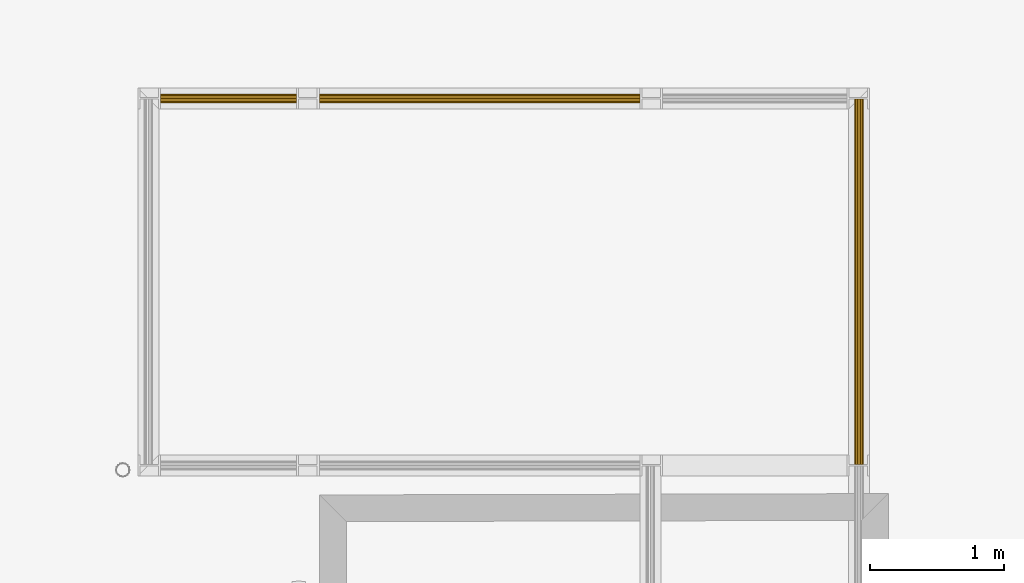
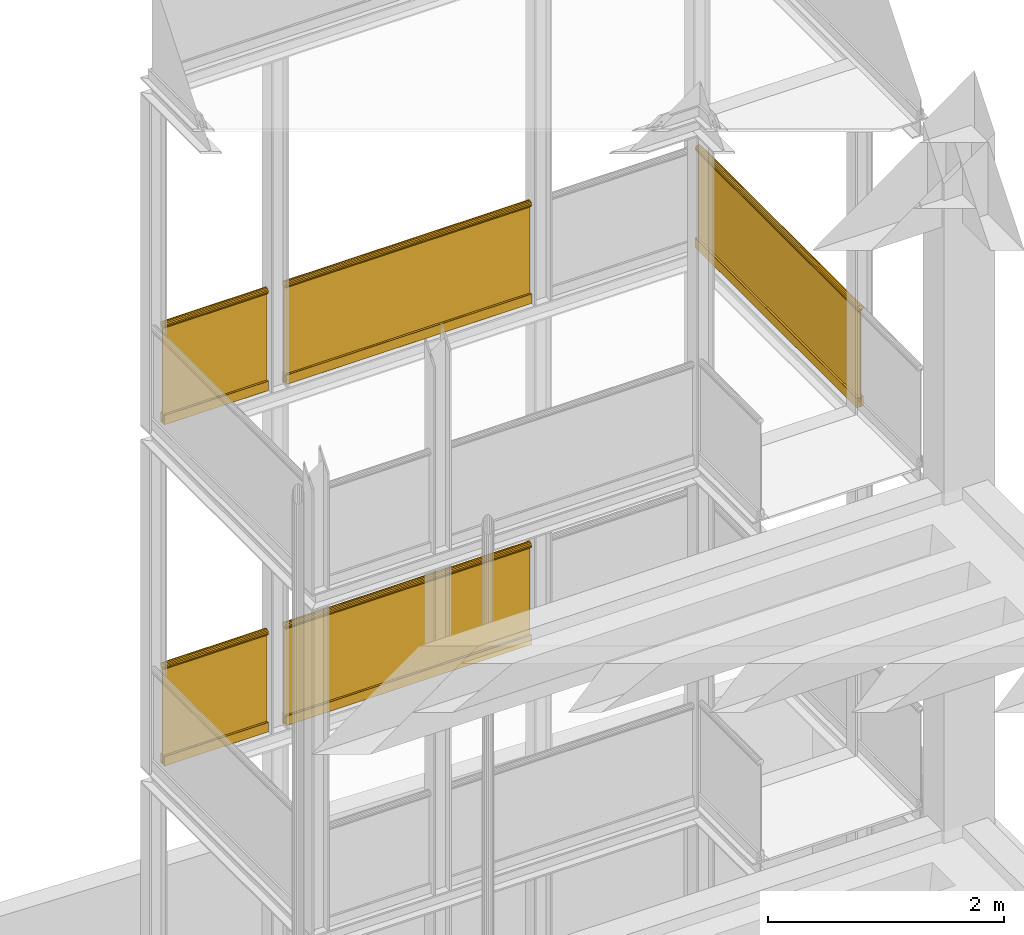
# One storey, part 34 of 108: 5 railings.
"""IFC2X3 building model written with IfcOpenShell, lengths in metres."""

from ifc_helpers import new_model, entity, si_unit, converted_unit, derived_unit, money_unit, direction, frame, origin_with_axes, place, context, subcontext, project, spatial, faceted_brep, material, type_object, element, save


model = new_model("IFC2X3")

# Units and contexts
model_context = context("Model", 3, precision=1e-05, world=origin_with_axes(), true_north=direction((0.0, 1.0)))
body_context = subcontext(model_context, "Body", "Model", "MODEL_VIEW", scale=1.0)
ifc_project = project(units=[si_unit("LENGTHUNIT", "METRE"), si_unit("AREAUNIT", "SQUARE_METRE"), si_unit("VOLUMEUNIT", "CUBIC_METRE"), si_unit("ABSORBEDDOSEUNIT", "GRAY"), si_unit("AMOUNTOFSUBSTANCEUNIT", "MOLE"), si_unit("DOSEEQUIVALENTUNIT", "SIEVERT"), si_unit("ELECTRICCAPACITANCEUNIT", "FARAD"), si_unit("ELECTRICCHARGEUNIT", "COULOMB"), si_unit("ELECTRICCONDUCTANCEUNIT", "SIEMENS"), si_unit("ELECTRICCURRENTUNIT", "AMPERE"), si_unit("ELECTRICRESISTANCEUNIT", "OHM"), si_unit("ELECTRICVOLTAGEUNIT", "VOLT"), si_unit("ENERGYUNIT", "JOULE"), si_unit("FORCEUNIT", "NEWTON"), si_unit("FREQUENCYUNIT", "HERTZ"), si_unit("ILLUMINANCEUNIT", "LUX"), si_unit("INDUCTANCEUNIT", "HENRY"), si_unit("LUMINOUSFLUXUNIT", "LUMEN"), si_unit("LUMINOUSINTENSITYUNIT", "CANDELA"), si_unit("MAGNETICFLUXDENSITYUNIT", "TESLA"), si_unit("MAGNETICFLUXUNIT", "WEBER"), si_unit("MASSUNIT", "GRAM"), converted_unit("PLANEANGLEUNIT", "degree", entity("IfcReal", 0.0174532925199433), si_unit("PLANEANGLEUNIT", "RADIAN"), dimensions=[0, 0, 0, 0, 0, 0, 0]), si_unit("POWERUNIT", "WATT"), si_unit("PRESSUREUNIT", "PASCAL"), si_unit("RADIOACTIVITYUNIT", "BECQUEREL"), si_unit("SOLIDANGLEUNIT", "STERADIAN"), si_unit("THERMODYNAMICTEMPERATUREUNIT", "KELVIN"), si_unit("TIMEUNIT", "SECOND"), derived_unit("ACCELERATIONUNIT", [(si_unit("LENGTHUNIT", "METRE"), 1), (si_unit("TIMEUNIT", "SECOND"), -2)]), derived_unit("ANGULARVELOCITYUNIT", [(converted_unit("PLANEANGLEUNIT", "degree", entity("IfcReal", 0.0174532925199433), si_unit("PLANEANGLEUNIT", "RADIAN"), dimensions=[0, 0, 0, 0, 0, 0, 0]), 1), (si_unit("TIMEUNIT", "SECOND"), -1)]), derived_unit("CURVATUREUNIT", [(converted_unit("PLANEANGLEUNIT", "degree", entity("IfcReal", 0.0174532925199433), si_unit("PLANEANGLEUNIT", "RADIAN"), dimensions=[0, 0, 0, 0, 0, 0, 0]), 1), (si_unit("LENGTHUNIT", "METRE"), -1)]), derived_unit("DYNAMICVISCOSITYUNIT", [(si_unit("PRESSUREUNIT", "PASCAL"), 1), (si_unit("TIMEUNIT", "SECOND"), 1)]), derived_unit("HEATFLUXDENSITYUNIT", [(si_unit("POWERUNIT", "WATT"), 1), (si_unit("LENGTHUNIT", "METRE"), -2)]), derived_unit("HEATINGVALUEUNIT", [(si_unit("ENERGYUNIT", "JOULE"), 1), (si_unit("MASSUNIT", "GRAM"), -1)]), derived_unit("INTEGERCOUNTRATEUNIT", [(si_unit("TIMEUNIT", "SECOND"), -1)]), derived_unit("IONCONCENTRATIONUNIT", [(si_unit("MASSUNIT", "GRAM"), 1), (si_unit("VOLUMEUNIT", "CUBIC_METRE"), -1)]), derived_unit("ISOTHERMALMOISTURECAPACITYUNIT", [(si_unit("VOLUMEUNIT", "CUBIC_METRE"), 1), (si_unit("MASSUNIT", "GRAM"), -1)]), derived_unit("KINEMATICVISCOSITYUNIT", [(si_unit("AREAUNIT", "SQUARE_METRE"), 1), (si_unit("TIMEUNIT", "SECOND"), -1)]), derived_unit("LINEARFORCEUNIT", [(si_unit("FORCEUNIT", "NEWTON"), 1), (si_unit("LENGTHUNIT", "METRE"), -1)]), derived_unit("LINEARMOMENTUNIT", [(si_unit("FORCEUNIT", "NEWTON"), 1), (si_unit("LENGTHUNIT", "METRE"), -1)]), derived_unit("LINEARSTIFFNESSUNIT", [(si_unit("FORCEUNIT", "NEWTON"), 1), (si_unit("LENGTHUNIT", "METRE"), -1)]), derived_unit("LINEARVELOCITYUNIT", [(si_unit("LENGTHUNIT", "METRE"), 1), (si_unit("TIMEUNIT", "SECOND"), -1)]), derived_unit("LUMINOUSINTENSITYDISTRIBUTIONUNIT", [(si_unit("LUMINOUSINTENSITYUNIT", "CANDELA"), 1), (si_unit("LUMINOUSFLUXUNIT", "LUMEN"), -1)]), derived_unit("MASSDENSITYUNIT", [(si_unit("MASSUNIT", "GRAM"), 1), (si_unit("VOLUMEUNIT", "CUBIC_METRE"), -1)]), derived_unit("MASSFLOWRATEUNIT", [(si_unit("MASSUNIT", "GRAM"), 1), (si_unit("TIMEUNIT", "SECOND"), -1)]), derived_unit("MASSPERLENGTHUNIT", [(si_unit("MASSUNIT", "GRAM"), 1), (si_unit("LENGTHUNIT", "METRE"), -1)]), derived_unit("MODULUSOFELASTICITYUNIT", [(si_unit("FORCEUNIT", "NEWTON"), 1), (si_unit("AREAUNIT", "SQUARE_METRE"), -1)]), derived_unit("MODULUSOFLINEARSUBGRADEREACTIONUNIT", [(si_unit("FORCEUNIT", "NEWTON"), 1), (si_unit("LENGTHUNIT", "METRE"), -2)]), derived_unit("MODULUSOFROTATIONALSUBGRADEREACTIONUNIT", [(si_unit("FORCEUNIT", "NEWTON"), 1), (si_unit("LENGTHUNIT", "METRE"), 1)]), derived_unit("MODULUSOFSUBGRADEREACTIONUNIT", [(si_unit("FORCEUNIT", "NEWTON"), 1), (si_unit("VOLUMEUNIT", "CUBIC_METRE"), -1)]), derived_unit("MOISTUREDIFFUSIVITYUNIT", [(si_unit("VOLUMEUNIT", "CUBIC_METRE"), 1), (si_unit("TIMEUNIT", "SECOND"), -1)]), derived_unit("MOLECULARWEIGHTUNIT", [(si_unit("MASSUNIT", "GRAM"), 1), (si_unit("AMOUNTOFSUBSTANCEUNIT", "MOLE"), -1)]), derived_unit("PLANARFORCEUNIT", [(si_unit("FORCEUNIT", "NEWTON"), 1), (si_unit("LENGTHUNIT", "METRE"), -2)]), derived_unit("ROTATIONALFREQUENCYUNIT", [(si_unit("TIMEUNIT", "SECOND"), -1)]), derived_unit("ROTATIONALMASSUNIT", [(si_unit("MASSUNIT", "GRAM"), 1), (si_unit("LENGTHUNIT", "METRE"), 2)]), derived_unit("ROTATIONALSTIFFNESSUNIT", [(si_unit("FORCEUNIT", "NEWTON"), 1), (si_unit("LENGTHUNIT", "METRE"), 1), (converted_unit("PLANEANGLEUNIT", "degree", entity("IfcReal", 0.0174532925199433), si_unit("PLANEANGLEUNIT", "RADIAN"), dimensions=[0, 0, 0, 0, 0, 0, 0]), -1)]), derived_unit("SECTIONAREAINTEGRALUNIT", [(si_unit("LENGTHUNIT", "METRE"), 5)]), derived_unit("SECTIONMODULUSUNIT", [(si_unit("LENGTHUNIT", "METRE"), 3)]), derived_unit("SHEARMODULUSUNIT", [(si_unit("FORCEUNIT", "NEWTON"), 1), (si_unit("AREAUNIT", "SQUARE_METRE"), -1)]), derived_unit("SOUNDPOWERUNIT", [(si_unit("ENERGYUNIT", "JOULE"), 1), (si_unit("TIMEUNIT", "SECOND"), -1)]), derived_unit("SPECIFICHEATCAPACITYUNIT", [(si_unit("FORCEUNIT", "NEWTON"), 1), (si_unit("MASSUNIT", "GRAM"), -1), (si_unit("THERMODYNAMICTEMPERATUREUNIT", "KELVIN"), -1)]), derived_unit("TEMPERATUREGRADIENTUNIT", [(si_unit("THERMODYNAMICTEMPERATUREUNIT", "KELVIN"), 1), (si_unit("LENGTHUNIT", "METRE"), -1)]), derived_unit("THERMALADMITTANCEUNIT", [(si_unit("POWERUNIT", "WATT"), 1), (si_unit("AREAUNIT", "SQUARE_METRE"), -1), (si_unit("THERMODYNAMICTEMPERATUREUNIT", "KELVIN"), -1)]), derived_unit("THERMALCONDUCTANCEUNIT", [(si_unit("POWERUNIT", "WATT"), 1), (si_unit("LENGTHUNIT", "METRE"), -1), (si_unit("THERMODYNAMICTEMPERATUREUNIT", "KELVIN"), -1)]), derived_unit("THERMALEXPANSIONCOEFFICIENTUNIT", [(si_unit("THERMODYNAMICTEMPERATUREUNIT", "KELVIN"), -1)]), derived_unit("THERMALRESISTANCEUNIT", [(si_unit("AREAUNIT", "SQUARE_METRE"), 1), (si_unit("POWERUNIT", "WATT"), -1)]), derived_unit("THERMALTRANSMITTANCEUNIT", [(si_unit("POWERUNIT", "WATT"), 1), (si_unit("AREAUNIT", "SQUARE_METRE"), -1), (si_unit("THERMODYNAMICTEMPERATUREUNIT", "KELVIN"), -1)]), derived_unit("TORQUEUNIT", [(si_unit("FORCEUNIT", "NEWTON"), 1), (si_unit("LENGTHUNIT", "METRE"), 1)]), derived_unit("VAPORPERMEABILITYUNIT", [(si_unit("MASSUNIT", "GRAM"), 1), (si_unit("TIMEUNIT", "SECOND"), -1)]), derived_unit("VOLUMETRICFLOWRATEUNIT", [(si_unit("VOLUMEUNIT", "CUBIC_METRE"), 1), (si_unit("TIMEUNIT", "SECOND"), -1)]), derived_unit("WARPINGCONSTANTUNIT", [(si_unit("LENGTHUNIT", "METRE"), 6)]), derived_unit("WARPINGMOMENTUNIT", [(si_unit("FORCEUNIT", "NEWTON"), 1), (si_unit("LENGTHUNIT", "METRE"), 2)]), money_unit("GBP")], contexts=[model_context])

# Site, building, storey
site_placement = place(None, origin_with_axes())
site = spatial("IfcSite", under=ifc_project, at=site_placement, Name="Site", CompositionType="ELEMENT")
building_placement = place(site_placement, origin_with_axes())
building = spatial("IfcBuilding", under=site, at=building_placement, Name="Building01", CompositionType="ELEMENT")
storey_placement = place(building_placement, origin_with_axes())
storey = spatial("IfcBuildingStorey", under=building, at=storey_placement, Name="GF", CompositionType="ELEMENT", Elevation=0.0)

# Railings
ifc_material = material(Name="A_BSUK_Steel_Miscellaneous")
railing_type = type_object("IfcRailingType", Name="A-RailingGlassPanel-1050mm", PredefinedType="NOTDEFINED")
railing_1_placement = place(storey_placement, frame((22.199835, 18.663481, 8.587442), z_axis=(0.0, 0.0, 1.0), x_axis=(1.0, 0.0, 0.0)))
element("IfcRailing", 1, at=railing_1_placement, inside=storey, type_object=railing_type, material=ifc_material, Name="A-RailingGlassPanel-1050mm", ObjectType="A-RailingGlassPanel-1050mm", PredefinedType="HANDRAIL", context=body_context, shape_type="Brep", body=[
    faceted_brep([(-1.018201, -0.0125, 0.9875), (0.0, -0.0125, 0.9875), (0.0, -0.023022, 0.99456), (-1.018201, -0.023022, 0.99456), (0.0, -0.030045, 1.005108), (-1.018201, -0.030045, 1.005108), (0.0, -0.0325, 1.017539), (-1.018201, -0.0325, 1.017539), (0.0, -0.030015, 1.029964), (-1.018201, -0.030015, 1.029964), (0.0, -0.022967, 1.040495), (-1.018201, -0.022967, 1.040495), (0.0, -0.012428, 1.04753), (-1.018201, -0.012428, 1.04753), (0.0, 0.0, 1.05), (-1.018201, 0.0, 1.05), (0.0, 0.012428, 1.04753), (-1.018201, 0.012428, 1.04753), (0.0, 0.022967, 1.040495), (-1.018201, 0.022967, 1.040495), (0.0, 0.030015, 1.029964), (-1.018201, 0.030015, 1.029964), (0.0, 0.0325, 1.017539), (-1.018201, 0.0325, 1.017539), (0.0, 0.030045, 1.005108), (-1.018201, 0.030045, 1.005108), (0.0, 0.023022, 0.99456), (-1.018201, 0.023022, 0.99456), (0.0, 0.0125, 0.9875), (-1.018201, 0.0125, 0.9875), (-1.018201, -0.0125, 1.0125), (0.0, -0.0125, 1.0125), (-1.018201, 0.0125, 1.0125), (0.0, 0.0125, 1.0125)], [[[0, 1, 2, 3]], [[3, 2, 4, 5]], [[5, 4, 6, 7]], [[7, 6, 8, 9]], [[9, 8, 10, 11]], [[11, 10, 12, 13]], [[13, 12, 14, 15]], [[15, 14, 16, 17]], [[17, 16, 18, 19]], [[19, 18, 20, 21]], [[21, 20, 22, 23]], [[23, 22, 24, 25]], [[25, 24, 26, 27]], [[27, 26, 28, 29]], [[0, 30, 31, 1]], [[30, 32, 33, 31]], [[32, 30, 0, 3, 5, 7, 9, 11, 13, 15, 17, 19, 21, 23, 25, 27, 29]], [[32, 29, 28, 33]], [[28, 26, 24, 22, 20, 18, 16, 14, 12, 10, 8, 6, 4, 2, 1, 31, 33]]]),
    faceted_brep([(-1.018201, -0.0295, 0.099925), (0.0, -0.0295, 0.099925), (0.0, -0.0125, 0.099925), (-1.018201, -0.0125, 0.099925), (-1.018201, -0.0325, 0.096925), (0.0, -0.0325, 0.096925), (0.0, -0.032272, 0.098073), (-1.018201, -0.032272, 0.098073), (0.0, -0.031621, 0.099046), (-1.018201, -0.031621, 0.099046), (0.0, -0.030648, 0.099697), (-1.018201, -0.030648, 0.099697), (-1.018201, -0.0325, 0.003), (0.0, -0.0325, 0.003), (-1.018201, -0.0295, 0.0), (-1.018201, -0.030648, 0.000228), (-1.018201, -0.031621, 0.000879), (-1.018201, -0.032272, 0.001852), (-1.018201, -0.0125, 0.01), (-1.018201, 0.0125, 0.01), (-1.018201, 0.0125, 0.099925), (-1.018201, 0.0295, 0.099925), (-1.018201, 0.030648, 0.099697), (-1.018201, 0.031621, 0.099046), (-1.018201, 0.032272, 0.098073), (-1.018201, 0.0325, 0.096925), (-1.018201, 0.0325, 0.003), (-1.018201, 0.032272, 0.001852), (-1.018201, 0.031621, 0.000879), (-1.018201, 0.030648, 0.000228), (-1.018201, 0.0295, 0.0), (0.0, 0.0295, 0.0), (0.0, 0.030648, 0.000228), (0.0, 0.031621, 0.000879), (0.0, 0.032272, 0.001852), (0.0, 0.0325, 0.003), (0.0, 0.0325, 0.096925), (0.0, 0.032272, 0.098073), (0.0, 0.031621, 0.099046), (0.0, 0.030648, 0.099697), (0.0, 0.0295, 0.099925), (0.0, 0.0125, 0.099925), (0.0, 0.0125, 0.01), (0.0, -0.0125, 0.01), (0.0, -0.032272, 0.001852), (0.0, -0.031621, 0.000879), (0.0, -0.030648, 0.000228), (0.0, -0.0295, 0.0)], [[[0, 1, 2, 3]], [[4, 5, 6, 7]], [[7, 6, 8, 9]], [[9, 8, 10, 11]], [[11, 10, 1, 0]], [[4, 12, 13, 5]], [[14, 15, 16, 17, 12, 4, 7, 9, 11, 0, 3, 18, 19, 20, 21, 22, 23, 24, 25, 26, 27, 28, 29, 30]], [[31, 32, 33, 34, 35, 36, 37, 38, 39, 40, 41, 42, 43, 2, 1, 10, 8, 6, 5, 13, 44, 45, 46, 47]], [[14, 47, 46, 15]], [[15, 46, 45, 16]], [[16, 45, 44, 17]], [[17, 44, 13, 12]], [[14, 30, 31, 47]], [[26, 35, 34, 27]], [[27, 34, 33, 28]], [[28, 33, 32, 29]], [[29, 32, 31, 30]], [[26, 25, 36, 35]], [[21, 40, 39, 22]], [[22, 39, 38, 23]], [[23, 38, 37, 24]], [[24, 37, 36, 25]], [[21, 20, 41, 40]], [[20, 19, 42, 41]], [[19, 18, 43, 42]], [[18, 3, 2, 43]]]),
    faceted_brep([(0.0, 0.0, 0.05), (0.0, 0.0, 1.025), (-1.018201, 0.0, 1.025), (-1.018201, 0.0, 0.05), (-1.018201, 0.01, 0.05), (-1.018201, 0.01, 1.025), (0.0, 0.01, 1.025), (0.0, 0.01, 0.05)], [[[0, 1, 2, 3]], [[4, 5, 6, 7]], [[0, 7, 6, 1]], [[1, 6, 5, 2]], [[2, 5, 4, 3]], [[3, 4, 7, 0]]]),
])
railing_2_placement = place(storey_placement, frame((24.769835, 18.663481, 8.587442), z_axis=(0.0, 0.0, 1.0), x_axis=(1.0, 0.0, 0.0)))
element("IfcRailing", 2, at=railing_2_placement, inside=storey, type_object=railing_type, material=ifc_material, Name="A-RailingGlassPanel-1050mm", ObjectType="A-RailingGlassPanel-1050mm", PredefinedType="HANDRAIL", context=body_context, shape_type="Brep", body=[
    faceted_brep([(-2.3998, -0.0125, 0.9875), (0.0, -0.0125, 0.9875), (0.0, -0.023022, 0.99456), (-2.3998, -0.023022, 0.99456), (0.0, -0.030045, 1.005108), (-2.3998, -0.030045, 1.005108), (0.0, -0.0325, 1.017539), (-2.3998, -0.0325, 1.017539), (0.0, -0.030015, 1.029964), (-2.3998, -0.030015, 1.029964), (0.0, -0.022967, 1.040495), (-2.3998, -0.022967, 1.040495), (0.0, -0.012428, 1.04753), (-2.3998, -0.012428, 1.04753), (0.0, 0.0, 1.05), (-2.3998, 0.0, 1.05), (0.0, 0.012428, 1.04753), (-2.3998, 0.012428, 1.04753), (0.0, 0.022967, 1.040495), (-2.3998, 0.022967, 1.040495), (0.0, 0.030015, 1.029964), (-2.3998, 0.030015, 1.029964), (0.0, 0.0325, 1.017539), (-2.3998, 0.0325, 1.017539), (0.0, 0.030045, 1.005108), (-2.3998, 0.030045, 1.005108), (0.0, 0.023022, 0.99456), (-2.3998, 0.023022, 0.99456), (0.0, 0.0125, 0.9875), (-2.3998, 0.0125, 0.9875), (-2.3998, -0.0125, 1.0125), (0.0, -0.0125, 1.0125), (-2.3998, 0.0125, 1.0125), (0.0, 0.0125, 1.0125)], [[[0, 1, 2, 3]], [[3, 2, 4, 5]], [[5, 4, 6, 7]], [[7, 6, 8, 9]], [[9, 8, 10, 11]], [[11, 10, 12, 13]], [[13, 12, 14, 15]], [[15, 14, 16, 17]], [[17, 16, 18, 19]], [[19, 18, 20, 21]], [[21, 20, 22, 23]], [[23, 22, 24, 25]], [[25, 24, 26, 27]], [[27, 26, 28, 29]], [[0, 30, 31, 1]], [[30, 32, 33, 31]], [[32, 30, 0, 3, 5, 7, 9, 11, 13, 15, 17, 19, 21, 23, 25, 27, 29]], [[32, 29, 28, 33]], [[28, 26, 24, 22, 20, 18, 16, 14, 12, 10, 8, 6, 4, 2, 1, 31, 33]]]),
    faceted_brep([(-2.3998, -0.0295, 0.099925), (0.0, -0.0295, 0.099925), (0.0, -0.0125, 0.099925), (-2.3998, -0.0125, 0.099925), (-2.3998, -0.0325, 0.096925), (0.0, -0.0325, 0.096925), (0.0, -0.032272, 0.098073), (-2.3998, -0.032272, 0.098073), (0.0, -0.031621, 0.099046), (-2.3998, -0.031621, 0.099046), (0.0, -0.030648, 0.099697), (-2.3998, -0.030648, 0.099697), (-2.3998, -0.0325, 0.003), (0.0, -0.0325, 0.003), (-2.3998, -0.0295, 0.0), (-2.3998, -0.030648, 0.000228), (-2.3998, -0.031621, 0.000879), (-2.3998, -0.032272, 0.001852), (-2.3998, -0.0125, 0.01), (-2.3998, 0.0125, 0.01), (-2.3998, 0.0125, 0.099925), (-2.3998, 0.0295, 0.099925), (-2.3998, 0.030648, 0.099697), (-2.3998, 0.031621, 0.099046), (-2.3998, 0.032272, 0.098073), (-2.3998, 0.0325, 0.096925), (-2.3998, 0.0325, 0.003), (-2.3998, 0.032272, 0.001852), (-2.3998, 0.031621, 0.000879), (-2.3998, 0.030648, 0.000228), (-2.3998, 0.0295, 0.0), (0.0, 0.0295, 0.0), (0.0, 0.030648, 0.000228), (0.0, 0.031621, 0.000879), (0.0, 0.032272, 0.001852), (0.0, 0.0325, 0.003), (0.0, 0.0325, 0.096925), (0.0, 0.032272, 0.098073), (0.0, 0.031621, 0.099046), (0.0, 0.030648, 0.099697), (0.0, 0.0295, 0.099925), (0.0, 0.0125, 0.099925), (0.0, 0.0125, 0.01), (0.0, -0.0125, 0.01), (0.0, -0.032272, 0.001852), (0.0, -0.031621, 0.000879), (0.0, -0.030648, 0.000228), (0.0, -0.0295, 0.0)], [[[0, 1, 2, 3]], [[4, 5, 6, 7]], [[7, 6, 8, 9]], [[9, 8, 10, 11]], [[11, 10, 1, 0]], [[4, 12, 13, 5]], [[14, 15, 16, 17, 12, 4, 7, 9, 11, 0, 3, 18, 19, 20, 21, 22, 23, 24, 25, 26, 27, 28, 29, 30]], [[31, 32, 33, 34, 35, 36, 37, 38, 39, 40, 41, 42, 43, 2, 1, 10, 8, 6, 5, 13, 44, 45, 46, 47]], [[14, 47, 46, 15]], [[15, 46, 45, 16]], [[16, 45, 44, 17]], [[17, 44, 13, 12]], [[14, 30, 31, 47]], [[26, 35, 34, 27]], [[27, 34, 33, 28]], [[28, 33, 32, 29]], [[29, 32, 31, 30]], [[26, 25, 36, 35]], [[21, 40, 39, 22]], [[22, 39, 38, 23]], [[23, 38, 37, 24]], [[24, 37, 36, 25]], [[21, 20, 41, 40]], [[20, 19, 42, 41]], [[19, 18, 43, 42]], [[18, 3, 2, 43]]]),
    faceted_brep([(0.0, 0.0, 0.05), (0.0, 0.0, 1.025), (-2.3998, 0.0, 1.025), (-2.3998, 0.0, 0.05), (-2.3998, 0.01, 0.05), (-2.3998, 0.01, 1.025), (0.0, 0.01, 1.025), (0.0, 0.01, 0.05)], [[[0, 1, 2, 3]], [[4, 5, 6, 7]], [[0, 7, 6, 1]], [[1, 6, 5, 2]], [[2, 5, 4, 3]], [[3, 4, 7, 0]]]),
])
railing_3_placement = place(storey_placement, frame((26.411335, 15.921381, 8.587442), z_axis=(0.0, 0.0, 1.0), x_axis=(1.0, 0.0, 0.0)))
element("IfcRailing", 3, at=railing_3_placement, inside=storey, type_object=railing_type, material=ifc_material, Name="A-RailingGlassPanel-1050mm", ObjectType="A-RailingGlassPanel-1050mm", PredefinedType="HANDRAIL", context=body_context, shape_type="Brep", body=[
    faceted_brep([(-0.0125, 2.7366, 0.9875), (-0.0125, 0.0, 0.9875), (-0.023022, 0.0, 0.99456), (-0.023022, 2.7366, 0.99456), (-0.030045, 0.0, 1.005108), (-0.030045, 2.7366, 1.005108), (-0.0325, 0.0, 1.017539), (-0.0325, 2.7366, 1.017539), (-0.030015, 0.0, 1.029964), (-0.030015, 2.7366, 1.029964), (-0.022967, 0.0, 1.040495), (-0.022967, 2.7366, 1.040495), (-0.012428, 0.0, 1.04753), (-0.012428, 2.7366, 1.04753), (0.0, 0.0, 1.05), (0.0, 2.7366, 1.05), (0.012428, 0.0, 1.04753), (0.012428, 2.7366, 1.04753), (0.022967, 0.0, 1.040495), (0.022967, 2.7366, 1.040495), (0.030015, 0.0, 1.029964), (0.030015, 2.7366, 1.029964), (0.0325, 0.0, 1.017539), (0.0325, 2.7366, 1.017539), (0.030045, 0.0, 1.005108), (0.030045, 2.7366, 1.005108), (0.023022, 0.0, 0.99456), (0.023022, 2.7366, 0.99456), (0.0125, 0.0, 0.9875), (0.0125, 2.7366, 0.9875), (-0.0125, 2.7366, 1.0125), (-0.0125, 0.0, 1.0125), (0.0125, 2.7366, 1.0125), (0.0125, 0.0, 1.0125)], [[[0, 1, 2, 3]], [[3, 2, 4, 5]], [[5, 4, 6, 7]], [[7, 6, 8, 9]], [[9, 8, 10, 11]], [[11, 10, 12, 13]], [[13, 12, 14, 15]], [[15, 14, 16, 17]], [[17, 16, 18, 19]], [[19, 18, 20, 21]], [[21, 20, 22, 23]], [[23, 22, 24, 25]], [[25, 24, 26, 27]], [[27, 26, 28, 29]], [[0, 30, 31, 1]], [[30, 32, 33, 31]], [[32, 30, 0, 3, 5, 7, 9, 11, 13, 15, 17, 19, 21, 23, 25, 27, 29]], [[32, 29, 28, 33]], [[28, 26, 24, 22, 20, 18, 16, 14, 12, 10, 8, 6, 4, 2, 1, 31, 33]]]),
    faceted_brep([(-0.0295, 2.7366, 0.099925), (-0.0295, 0.0, 0.099925), (-0.0125, 0.0, 0.099925), (-0.0125, 2.7366, 0.099925), (-0.0325, 2.7366, 0.096925), (-0.0325, 0.0, 0.096925), (-0.032272, 0.0, 0.098073), (-0.032272, 2.7366, 0.098073), (-0.031621, 0.0, 0.099046), (-0.031621, 2.7366, 0.099046), (-0.030648, 0.0, 0.099697), (-0.030648, 2.7366, 0.099697), (-0.0325, 2.7366, 0.003), (-0.0325, 0.0, 0.003), (-0.0295, 2.7366, 0.0), (-0.030648, 2.7366, 0.000228), (-0.031621, 2.7366, 0.000879), (-0.032272, 2.7366, 0.001852), (-0.0125, 2.7366, 0.01), (0.0125, 2.7366, 0.01), (0.0125, 2.7366, 0.099925), (0.0295, 2.7366, 0.099925), (0.030648, 2.7366, 0.099697), (0.031621, 2.7366, 0.099046), (0.032272, 2.7366, 0.098073), (0.0325, 2.7366, 0.096925), (0.0325, 2.7366, 0.003), (0.032272, 2.7366, 0.001852), (0.031621, 2.7366, 0.000879), (0.030648, 2.7366, 0.000228), (0.0295, 2.7366, 0.0), (0.0295, 0.0, 0.0), (0.030648, 0.0, 0.000228), (0.031621, 0.0, 0.000879), (0.032272, 0.0, 0.001852), (0.0325, 0.0, 0.003), (0.0325, 0.0, 0.096925), (0.032272, 0.0, 0.098073), (0.031621, 0.0, 0.099046), (0.030648, 0.0, 0.099697), (0.0295, 0.0, 0.099925), (0.0125, 0.0, 0.099925), (0.0125, 0.0, 0.01), (-0.0125, 0.0, 0.01), (-0.032272, 0.0, 0.001852), (-0.031621, 0.0, 0.000879), (-0.030648, 0.0, 0.000228), (-0.0295, 0.0, 0.0)], [[[0, 1, 2, 3]], [[4, 5, 6, 7]], [[7, 6, 8, 9]], [[9, 8, 10, 11]], [[11, 10, 1, 0]], [[4, 12, 13, 5]], [[14, 15, 16, 17, 12, 4, 7, 9, 11, 0, 3, 18, 19, 20, 21, 22, 23, 24, 25, 26, 27, 28, 29, 30]], [[31, 32, 33, 34, 35, 36, 37, 38, 39, 40, 41, 42, 43, 2, 1, 10, 8, 6, 5, 13, 44, 45, 46, 47]], [[14, 47, 46, 15]], [[15, 46, 45, 16]], [[16, 45, 44, 17]], [[17, 44, 13, 12]], [[14, 30, 31, 47]], [[26, 35, 34, 27]], [[27, 34, 33, 28]], [[28, 33, 32, 29]], [[29, 32, 31, 30]], [[26, 25, 36, 35]], [[21, 40, 39, 22]], [[22, 39, 38, 23]], [[23, 38, 37, 24]], [[24, 37, 36, 25]], [[21, 20, 41, 40]], [[20, 19, 42, 41]], [[19, 18, 43, 42]], [[18, 3, 2, 43]]]),
    faceted_brep([(0.0, 0.0, 0.05), (0.0, 0.0, 1.025), (0.0, 2.7366, 1.025), (0.0, 2.7366, 0.05), (0.01, 2.7366, 0.05), (0.01, 2.7366, 1.025), (0.01, 0.0, 1.025), (0.01, 0.0, 0.05)], [[[0, 1, 2, 3]], [[4, 5, 6, 7]], [[0, 7, 6, 1]], [[1, 6, 5, 2]], [[2, 5, 4, 3]], [[3, 4, 7, 0]]]),
])
railing_4_placement = place(storey_placement, frame((22.199835, 18.663481, 5.064467), z_axis=(0.0, 0.0, 1.0), x_axis=(1.0, 0.0, 0.0)))
element("IfcRailing", 4, at=railing_4_placement, inside=storey, type_object=railing_type, material=ifc_material, Name="A-RailingGlassPanel-1050mm", ObjectType="A-RailingGlassPanel-1050mm", PredefinedType="HANDRAIL", context=body_context, shape_type="Brep", body=[
    faceted_brep([(-1.018201, -0.0125, 0.9875), (0.0, -0.0125, 0.9875), (0.0, -0.023022, 0.99456), (-1.018201, -0.023022, 0.99456), (0.0, -0.030045, 1.005108), (-1.018201, -0.030045, 1.005108), (0.0, -0.0325, 1.017539), (-1.018201, -0.0325, 1.017539), (0.0, -0.030015, 1.029964), (-1.018201, -0.030015, 1.029964), (0.0, -0.022967, 1.040495), (-1.018201, -0.022967, 1.040495), (0.0, -0.012428, 1.04753), (-1.018201, -0.012428, 1.04753), (0.0, 0.0, 1.05), (-1.018201, 0.0, 1.05), (0.0, 0.012428, 1.04753), (-1.018201, 0.012428, 1.04753), (0.0, 0.022967, 1.040495), (-1.018201, 0.022967, 1.040495), (0.0, 0.030015, 1.029964), (-1.018201, 0.030015, 1.029964), (0.0, 0.0325, 1.017539), (-1.018201, 0.0325, 1.017539), (0.0, 0.030045, 1.005108), (-1.018201, 0.030045, 1.005108), (0.0, 0.023022, 0.99456), (-1.018201, 0.023022, 0.99456), (0.0, 0.0125, 0.9875), (-1.018201, 0.0125, 0.9875), (-1.018201, -0.0125, 1.0125), (0.0, -0.0125, 1.0125), (-1.018201, 0.0125, 1.0125), (0.0, 0.0125, 1.0125)], [[[0, 1, 2, 3]], [[3, 2, 4, 5]], [[5, 4, 6, 7]], [[7, 6, 8, 9]], [[9, 8, 10, 11]], [[11, 10, 12, 13]], [[13, 12, 14, 15]], [[15, 14, 16, 17]], [[17, 16, 18, 19]], [[19, 18, 20, 21]], [[21, 20, 22, 23]], [[23, 22, 24, 25]], [[25, 24, 26, 27]], [[27, 26, 28, 29]], [[0, 30, 31, 1]], [[30, 32, 33, 31]], [[32, 30, 0, 3, 5, 7, 9, 11, 13, 15, 17, 19, 21, 23, 25, 27, 29]], [[32, 29, 28, 33]], [[28, 26, 24, 22, 20, 18, 16, 14, 12, 10, 8, 6, 4, 2, 1, 31, 33]]]),
    faceted_brep([(-1.018201, -0.0295, 0.099925), (0.0, -0.0295, 0.099925), (0.0, -0.0125, 0.099925), (-1.018201, -0.0125, 0.099925), (-1.018201, -0.0325, 0.096925), (0.0, -0.0325, 0.096925), (0.0, -0.032272, 0.098073), (-1.018201, -0.032272, 0.098073), (0.0, -0.031621, 0.099046), (-1.018201, -0.031621, 0.099046), (0.0, -0.030648, 0.099697), (-1.018201, -0.030648, 0.099697), (-1.018201, -0.0325, 0.003), (0.0, -0.0325, 0.003), (-1.018201, -0.0295, 0.0), (-1.018201, -0.030648, 0.000228), (-1.018201, -0.031621, 0.000879), (-1.018201, -0.032272, 0.001852), (-1.018201, -0.0125, 0.01), (-1.018201, 0.0125, 0.01), (-1.018201, 0.0125, 0.099925), (-1.018201, 0.0295, 0.099925), (-1.018201, 0.030648, 0.099697), (-1.018201, 0.031621, 0.099046), (-1.018201, 0.032272, 0.098073), (-1.018201, 0.0325, 0.096925), (-1.018201, 0.0325, 0.003), (-1.018201, 0.032272, 0.001852), (-1.018201, 0.031621, 0.000879), (-1.018201, 0.030648, 0.000228), (-1.018201, 0.0295, 0.0), (0.0, 0.0295, 0.0), (0.0, 0.030648, 0.000228), (0.0, 0.031621, 0.000879), (0.0, 0.032272, 0.001852), (0.0, 0.0325, 0.003), (0.0, 0.0325, 0.096925), (0.0, 0.032272, 0.098073), (0.0, 0.031621, 0.099046), (0.0, 0.030648, 0.099697), (0.0, 0.0295, 0.099925), (0.0, 0.0125, 0.099925), (0.0, 0.0125, 0.01), (0.0, -0.0125, 0.01), (0.0, -0.032272, 0.001852), (0.0, -0.031621, 0.000879), (0.0, -0.030648, 0.000228), (0.0, -0.0295, 0.0)], [[[0, 1, 2, 3]], [[4, 5, 6, 7]], [[7, 6, 8, 9]], [[9, 8, 10, 11]], [[11, 10, 1, 0]], [[4, 12, 13, 5]], [[14, 15, 16, 17, 12, 4, 7, 9, 11, 0, 3, 18, 19, 20, 21, 22, 23, 24, 25, 26, 27, 28, 29, 30]], [[31, 32, 33, 34, 35, 36, 37, 38, 39, 40, 41, 42, 43, 2, 1, 10, 8, 6, 5, 13, 44, 45, 46, 47]], [[14, 47, 46, 15]], [[15, 46, 45, 16]], [[16, 45, 44, 17]], [[17, 44, 13, 12]], [[14, 30, 31, 47]], [[26, 35, 34, 27]], [[27, 34, 33, 28]], [[28, 33, 32, 29]], [[29, 32, 31, 30]], [[26, 25, 36, 35]], [[21, 40, 39, 22]], [[22, 39, 38, 23]], [[23, 38, 37, 24]], [[24, 37, 36, 25]], [[21, 20, 41, 40]], [[20, 19, 42, 41]], [[19, 18, 43, 42]], [[18, 3, 2, 43]]]),
    faceted_brep([(0.0, 0.0, 0.05), (0.0, 0.0, 1.025), (-1.018201, 0.0, 1.025), (-1.018201, 0.0, 0.05), (-1.018201, 0.01, 0.05), (-1.018201, 0.01, 1.025), (0.0, 0.01, 1.025), (0.0, 0.01, 0.05)], [[[0, 1, 2, 3]], [[4, 5, 6, 7]], [[0, 7, 6, 1]], [[1, 6, 5, 2]], [[2, 5, 4, 3]], [[3, 4, 7, 0]]]),
])
railing_5_placement = place(storey_placement, frame((24.769835, 18.663481, 5.064467), z_axis=(0.0, 0.0, 1.0), x_axis=(1.0, 0.0, 0.0)))
element("IfcRailing", 5, at=railing_5_placement, inside=storey, type_object=railing_type, material=ifc_material, Name="A-RailingGlassPanel-1050mm", ObjectType="A-RailingGlassPanel-1050mm", PredefinedType="HANDRAIL", context=body_context, shape_type="Brep", body=[
    faceted_brep([(-2.3998, -0.0125, 0.9875), (0.0, -0.0125, 0.9875), (0.0, -0.023022, 0.99456), (-2.3998, -0.023022, 0.99456), (0.0, -0.030045, 1.005108), (-2.3998, -0.030045, 1.005108), (0.0, -0.0325, 1.017539), (-2.3998, -0.0325, 1.017539), (0.0, -0.030015, 1.029964), (-2.3998, -0.030015, 1.029964), (0.0, -0.022967, 1.040495), (-2.3998, -0.022967, 1.040495), (0.0, -0.012428, 1.04753), (-2.3998, -0.012428, 1.04753), (0.0, 0.0, 1.05), (-2.3998, 0.0, 1.05), (0.0, 0.012428, 1.04753), (-2.3998, 0.012428, 1.04753), (0.0, 0.022967, 1.040495), (-2.3998, 0.022967, 1.040495), (0.0, 0.030015, 1.029964), (-2.3998, 0.030015, 1.029964), (0.0, 0.0325, 1.017539), (-2.3998, 0.0325, 1.017539), (0.0, 0.030045, 1.005108), (-2.3998, 0.030045, 1.005108), (0.0, 0.023022, 0.99456), (-2.3998, 0.023022, 0.99456), (0.0, 0.0125, 0.9875), (-2.3998, 0.0125, 0.9875), (-2.3998, -0.0125, 1.0125), (0.0, -0.0125, 1.0125), (-2.3998, 0.0125, 1.0125), (0.0, 0.0125, 1.0125)], [[[0, 1, 2, 3]], [[3, 2, 4, 5]], [[5, 4, 6, 7]], [[7, 6, 8, 9]], [[9, 8, 10, 11]], [[11, 10, 12, 13]], [[13, 12, 14, 15]], [[15, 14, 16, 17]], [[17, 16, 18, 19]], [[19, 18, 20, 21]], [[21, 20, 22, 23]], [[23, 22, 24, 25]], [[25, 24, 26, 27]], [[27, 26, 28, 29]], [[0, 30, 31, 1]], [[30, 32, 33, 31]], [[32, 30, 0, 3, 5, 7, 9, 11, 13, 15, 17, 19, 21, 23, 25, 27, 29]], [[32, 29, 28, 33]], [[28, 26, 24, 22, 20, 18, 16, 14, 12, 10, 8, 6, 4, 2, 1, 31, 33]]]),
    faceted_brep([(-2.3998, -0.0295, 0.099925), (0.0, -0.0295, 0.099925), (0.0, -0.0125, 0.099925), (-2.3998, -0.0125, 0.099925), (-2.3998, -0.0325, 0.096925), (0.0, -0.0325, 0.096925), (0.0, -0.032272, 0.098073), (-2.3998, -0.032272, 0.098073), (0.0, -0.031621, 0.099046), (-2.3998, -0.031621, 0.099046), (0.0, -0.030648, 0.099697), (-2.3998, -0.030648, 0.099697), (-2.3998, -0.0325, 0.003), (0.0, -0.0325, 0.003), (-2.3998, -0.0295, 0.0), (-2.3998, -0.030648, 0.000228), (-2.3998, -0.031621, 0.000879), (-2.3998, -0.032272, 0.001852), (-2.3998, -0.0125, 0.01), (-2.3998, 0.0125, 0.01), (-2.3998, 0.0125, 0.099925), (-2.3998, 0.0295, 0.099925), (-2.3998, 0.030648, 0.099697), (-2.3998, 0.031621, 0.099046), (-2.3998, 0.032272, 0.098073), (-2.3998, 0.0325, 0.096925), (-2.3998, 0.0325, 0.003), (-2.3998, 0.032272, 0.001852), (-2.3998, 0.031621, 0.000879), (-2.3998, 0.030648, 0.000228), (-2.3998, 0.0295, 0.0), (0.0, 0.0295, 0.0), (0.0, 0.030648, 0.000228), (0.0, 0.031621, 0.000879), (0.0, 0.032272, 0.001852), (0.0, 0.0325, 0.003), (0.0, 0.0325, 0.096925), (0.0, 0.032272, 0.098073), (0.0, 0.031621, 0.099046), (0.0, 0.030648, 0.099697), (0.0, 0.0295, 0.099925), (0.0, 0.0125, 0.099925), (0.0, 0.0125, 0.01), (0.0, -0.0125, 0.01), (0.0, -0.032272, 0.001852), (0.0, -0.031621, 0.000879), (0.0, -0.030648, 0.000228), (0.0, -0.0295, 0.0)], [[[0, 1, 2, 3]], [[4, 5, 6, 7]], [[7, 6, 8, 9]], [[9, 8, 10, 11]], [[11, 10, 1, 0]], [[4, 12, 13, 5]], [[14, 15, 16, 17, 12, 4, 7, 9, 11, 0, 3, 18, 19, 20, 21, 22, 23, 24, 25, 26, 27, 28, 29, 30]], [[31, 32, 33, 34, 35, 36, 37, 38, 39, 40, 41, 42, 43, 2, 1, 10, 8, 6, 5, 13, 44, 45, 46, 47]], [[14, 47, 46, 15]], [[15, 46, 45, 16]], [[16, 45, 44, 17]], [[17, 44, 13, 12]], [[14, 30, 31, 47]], [[26, 35, 34, 27]], [[27, 34, 33, 28]], [[28, 33, 32, 29]], [[29, 32, 31, 30]], [[26, 25, 36, 35]], [[21, 40, 39, 22]], [[22, 39, 38, 23]], [[23, 38, 37, 24]], [[24, 37, 36, 25]], [[21, 20, 41, 40]], [[20, 19, 42, 41]], [[19, 18, 43, 42]], [[18, 3, 2, 43]]]),
    faceted_brep([(0.0, 0.0, 0.05), (0.0, 0.0, 1.025), (-2.3998, 0.0, 1.025), (-2.3998, 0.0, 0.05), (-2.3998, 0.01, 0.05), (-2.3998, 0.01, 1.025), (0.0, 0.01, 1.025), (0.0, 0.01, 0.05)], [[[0, 1, 2, 3]], [[4, 5, 6, 7]], [[0, 7, 6, 1]], [[1, 6, 5, 2]], [[2, 5, 4, 3]], [[3, 4, 7, 0]]]),
])

save(model, "model.ifc")
